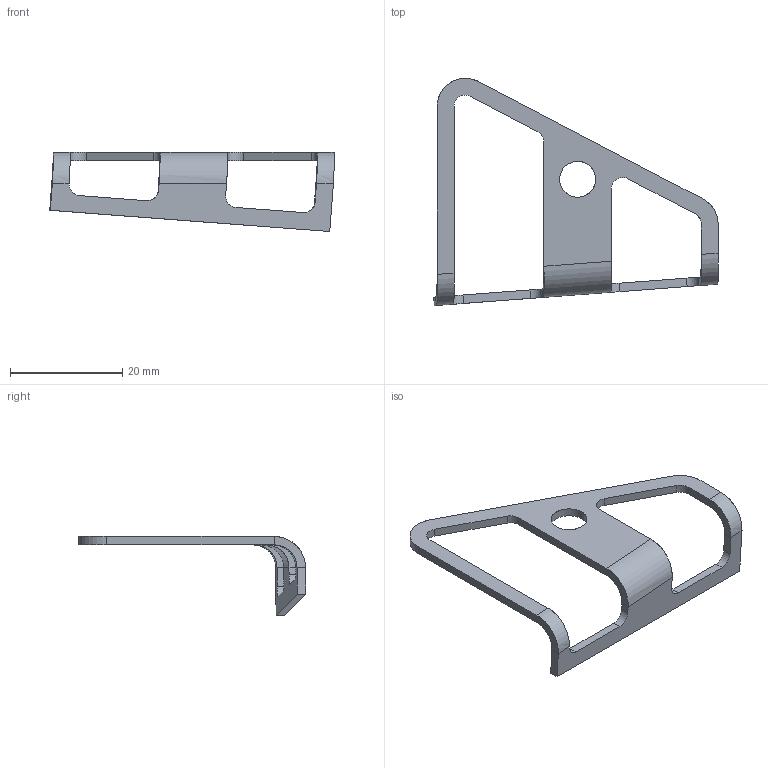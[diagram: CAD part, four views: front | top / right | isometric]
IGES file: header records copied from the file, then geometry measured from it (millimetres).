
Start section: START RECORD GO HERE.
Global section: file name: 20M_EL_09007 (Chape MK3).igs; native system: IBM CATIA IGES - CATIA Version 5 Release 19 ; preprocessor: CATIA Version 5 Release 19 ; author: Mathieu Jacquet; organization: MBPRO; date: 20200123.224809; units: millimetre
Bounding box: 50.63 x 40.43 x 14.06 mm (x, y, z)
Surface area: 2238.7 mm2 (no closed solid volume)
Topology: 0 solids, 0 shells, 46 faces, 240 edges, 240 vertices
Faces by surface type: plane 22, revolution 18, bspline 6
